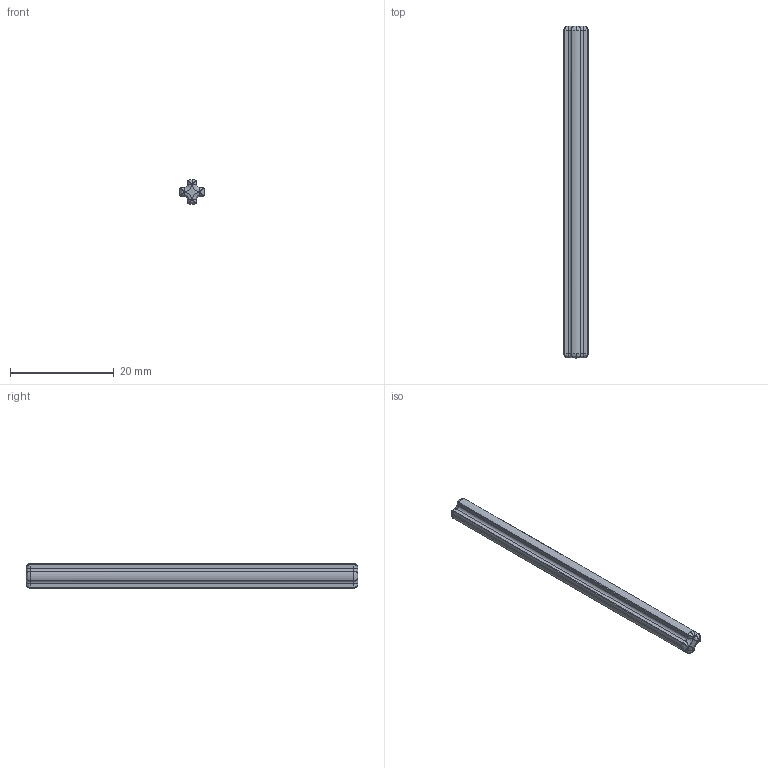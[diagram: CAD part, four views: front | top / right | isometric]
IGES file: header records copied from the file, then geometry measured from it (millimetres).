
Start section: C
Global section: file name: Black_370726_JCA.iges; native system: By Siemens PLM Incorporated; preprocessor: XPlus GENERIC/IGES 26.1.183; author: Author; organization: Title; date: 20250721.234307; units: millimetre
Bounding box: 4.8 x 64 x 4.8 mm (x, y, z)
Surface area: 1102.4 mm2 (no closed solid volume)
Topology: 0 solids, 0 shells, 77 faces, 338 edges, 322 vertices
Faces by surface type: bspline 77
